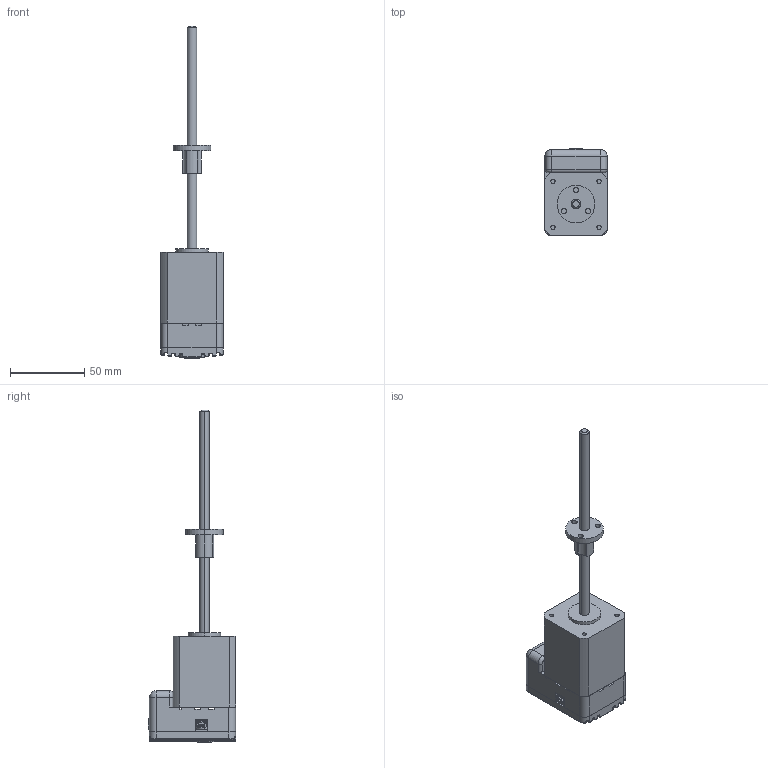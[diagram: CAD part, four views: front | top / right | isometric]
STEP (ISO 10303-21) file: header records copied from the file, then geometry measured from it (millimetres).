
FILE_DESCRIPTION (( 'STEP AP214' ), '1' );
FILE_NAME ('AMETEK-EM43MGZ-2.8-6-PTFE-M3.STEP', '2026-06-25T10:27:41', ( '' ), ( '' ), 'SwSTEP 2.0', 'SolidWorks 2022', '' );
FILE_SCHEMA (( 'AUTOMOTIVE_DESIGN' ));
Length unit declared in the file: inch
Products named in the file (19): Enc_J1; 26-2200; AMETEK-EM43MGZ-2.8-6-PTFE-M3; Enc_Board; 28-354_Partstream; Main_PCB_Partstream; 43000 External Linear Nut; Enc_J1_Conn_Hirose_DF3A-10P-2DS; Main_Board; Comm_PCB_Partstream; Main_J2_Conn_Tyco_C-284512-2; IDEA_Partstream_USB; 33-580; 43000 Double Stack External Linear_IDEA; Enc_J2; Enc_J2_Conn_USB_UX60-MB-5ST; 42-784_91843A109; Main_j2
Assembly tree (18 placements, depth 5):
  AMETEK-EM43MGZ-2.8-6-PTFE-M3
    43000 Double Stack External Linear_IDEA
    43000 External Linear Nut
    IDEA_Partstream_USB
      28-354_Partstream
        28-354_Partstream
        33-580
      Comm_PCB_Partstream
        Enc_J1
          Enc_J1_Conn_Hirose_DF3A-10P-2DS
        Enc_J2
          Enc_J2_Conn_USB_UX60-MB-5ST
        Enc_Board
      Main_PCB_Partstream
        Main_j2
          Main_J2_Conn_Tyco_C-284512-2
        Main_Board
      26-2200
      42-784_91843A109
Bounding box: 42.2 x 58.88 x 223.72 mm (x, y, z)
Volume: 114005.6 mm3; surface area: 49685.3 mm2
Topology: 11 solids, 11 shells, 1896 faces, 4864 edges, 2973 vertices
Faces by surface type: plane 817, cylinder 616, bspline 276, torus 111, cone 60, sphere 16
Entity records: 67531 total; most frequent: CARTESIAN_POINT 21809, ORIENTED_EDGE 9568, DIRECTION 8729, EDGE_CURVE 4784, AXIS2_PLACEMENT_3D 3022, VERTEX_POINT 2971, VECTOR 2685, LINE 2685
